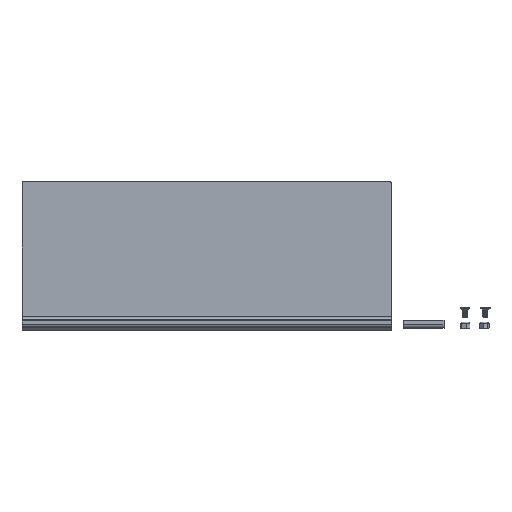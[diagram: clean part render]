
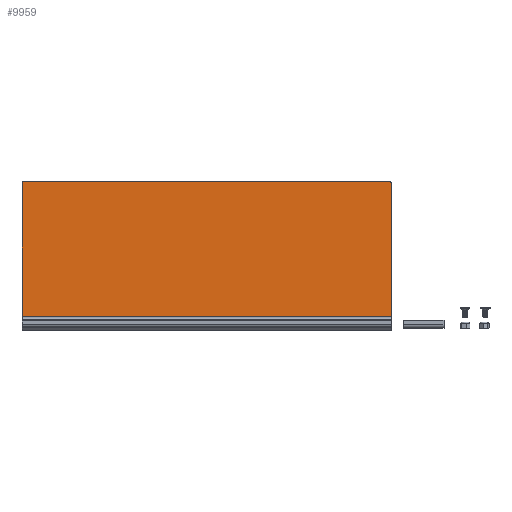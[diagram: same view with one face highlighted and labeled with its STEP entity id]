
A CAD part, top view. The second image highlights one B-rep face of the part: STEP entity #9959.
In plain terms, the highlighted planar face has unit normal (0, 0, 1) as drawn and (1, 0, 0) by its records, which use the part's own axes.
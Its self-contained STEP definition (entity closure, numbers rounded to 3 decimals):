
#446 = VERTEX_POINT ( 'NONE', #16697 ) ;
#651 = CARTESIAN_POINT ( 'NONE',  ( -25., 62.25, 152. ) ) ;
#906 = VECTOR ( 'NONE', #11230, 1000. ) ;
#960 = VECTOR ( 'NONE', #4739, 1000. ) ;
#979 = CARTESIAN_POINT ( 'NONE',  ( -25., -51.25, 154. ) ) ;
#1134 = LINE ( 'NONE', #15309, #906 ) ;
#1219 = DIRECTION ( 'NONE',  ( 0., -1., 0. ) ) ;
#1697 = ORIENTED_EDGE ( 'NONE', *, *, #7748, .F. ) ;
#1747 = VECTOR ( 'NONE', #4822, 1000. ) ;
#2142 = CARTESIAN_POINT ( 'NONE',  ( -25., 62.25, -152. ) ) ;
#2195 = PLANE ( 'NONE',  #5873 ) ;
#2488 = EDGE_LOOP ( 'NONE', ( #2503, #9026, #3078, #11050, #1697, #2765 ) ) ;
#2503 = ORIENTED_EDGE ( 'NONE', *, *, #11440, .T. ) ;
#2711 = VERTEX_POINT ( 'NONE', #2142 ) ;
#2765 = ORIENTED_EDGE ( 'NONE', *, *, #6065, .T. ) ;
#2993 = LINE ( 'NONE', #12260, #7534 ) ;
#3078 = ORIENTED_EDGE ( 'NONE', *, *, #12118, .F. ) ;
#4045 = CARTESIAN_POINT ( 'NONE',  ( -25., 60.25, 152. ) ) ;
#4239 = CIRCLE ( 'NONE', #6701, 2. ) ;
#4739 = DIRECTION ( 'NONE',  ( 0., 1., 0. ) ) ;
#4822 = DIRECTION ( 'NONE',  ( 0., 1., 0. ) ) ;
#4919 = DIRECTION ( 'NONE',  ( -1., 0., 0. ) ) ;
#5187 = VERTEX_POINT ( 'NONE', #10382 ) ;
#5316 = DIRECTION ( 'NONE',  ( 1., 0., 0. ) ) ;
#5423 = AXIS2_PLACEMENT_3D ( 'NONE', #11876, #5316, #9318 ) ;
#5873 = AXIS2_PLACEMENT_3D ( 'NONE', #979, #4919, #1219 ) ;
#6065 = EDGE_CURVE ( 'NONE', #9240, #446, #1134, .T. ) ;
#6567 = VERTEX_POINT ( 'NONE', #12023 ) ;
#6701 = AXIS2_PLACEMENT_3D ( 'NONE', #4045, #9243, #11889 ) ;
#7231 = LINE ( 'NONE', #12478, #1747 ) ;
#7534 = VECTOR ( 'NONE', #12336, 1000. ) ;
#7748 = EDGE_CURVE ( 'NONE', #9240, #5187, #7231, .T. ) ;
#8407 = CIRCLE ( 'NONE', #5423, 2. ) ;
#8743 = VERTEX_POINT ( 'NONE', #651 ) ;
#8750 = LINE ( 'NONE', #13938, #960 ) ;
#9026 = ORIENTED_EDGE ( 'NONE', *, *, #15554, .T. ) ;
#9240 = VERTEX_POINT ( 'NONE', #15304 ) ;
#9243 = DIRECTION ( 'NONE',  ( 1., 0., 0. ) ) ;
#9318 = DIRECTION ( 'NONE',  ( 0., -1., 0. ) ) ;
#9959 = ADVANCED_FACE ( 'NONE', ( #11639 ), #2195, .F. ) ;
#10382 = CARTESIAN_POINT ( 'NONE',  ( -25., 60.25, 154. ) ) ;
#11050 = ORIENTED_EDGE ( 'NONE', *, *, #11588, .T. ) ;
#11230 = DIRECTION ( 'NONE',  ( 0., 0., -1. ) ) ;
#11440 = EDGE_CURVE ( 'NONE', #446, #6567, #8750, .T. ) ;
#11588 = EDGE_CURVE ( 'NONE', #8743, #5187, #4239, .T. ) ;
#11639 = FACE_OUTER_BOUND ( 'NONE', #2488, .T. ) ;
#11876 = CARTESIAN_POINT ( 'NONE',  ( -25., 60.25, -152. ) ) ;
#11889 = DIRECTION ( 'NONE',  ( 0., -1., 0. ) ) ;
#12023 = CARTESIAN_POINT ( 'NONE',  ( -25., 60.25, -154. ) ) ;
#12118 = EDGE_CURVE ( 'NONE', #8743, #2711, #2993, .T. ) ;
#12260 = CARTESIAN_POINT ( 'NONE',  ( -25., 62.25, 154. ) ) ;
#12336 = DIRECTION ( 'NONE',  ( 0., 0., -1. ) ) ;
#12478 = CARTESIAN_POINT ( 'NONE',  ( -25., -51.25, 154. ) ) ;
#13938 = CARTESIAN_POINT ( 'NONE',  ( -25., -51.25, -154. ) ) ;
#15304 = CARTESIAN_POINT ( 'NONE',  ( -25., -50.25, 154. ) ) ;
#15309 = CARTESIAN_POINT ( 'NONE',  ( -25., -50.25, -154. ) ) ;
#15554 = EDGE_CURVE ( 'NONE', #6567, #2711, #8407, .T. ) ;
#16697 = CARTESIAN_POINT ( 'NONE',  ( -25., -50.25, -154. ) ) ;
